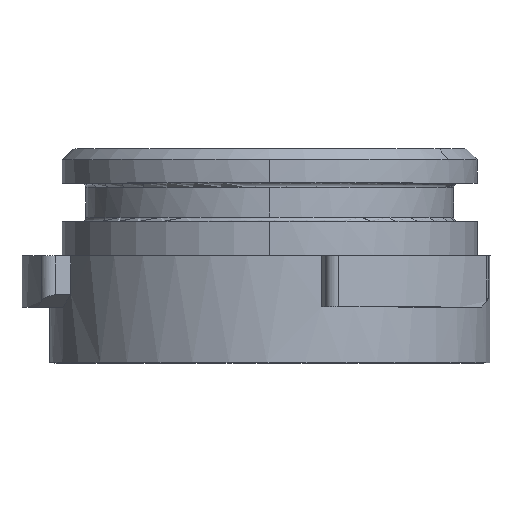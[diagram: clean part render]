
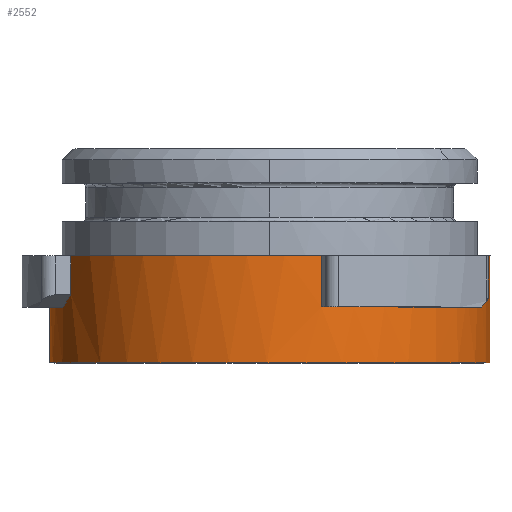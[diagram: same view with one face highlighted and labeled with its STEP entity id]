
A CAD part, top view. The second image highlights one B-rep face of the part: STEP entity #2552.
In plain terms, the highlighted cylindrical face has radius 10.3 mm (diameter 20.6 mm), a partial arc.
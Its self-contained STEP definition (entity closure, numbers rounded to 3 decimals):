
#2081=AXIS2_PLACEMENT_3D('Circle Axis2P3D',#2079,#2080,$) ;
#2359=AXIS2_PLACEMENT_3D('Circle Axis2P3D',#2357,#2358,$) ;
#2373=AXIS2_PLACEMENT_3D('Circle Axis2P3D',#2371,#2372,$) ;
#2493=AXIS2_PLACEMENT_3D('Circle Axis2P3D',#2491,#2492,$) ;
#2507=AXIS2_PLACEMENT_3D('Cylinder Axis2P3D',#2504,#2505,#2506) ;
#2528=AXIS2_PLACEMENT_3D('Circle Axis2P3D',#2526,#2527,$) ;
#50=CARTESIAN_POINT('Vertex',(2.417,-346.905,-60.474)) ;
#53=CARTESIAN_POINT('Line Origine',(2.417,-348.105,-60.474)) ;
#57=CARTESIAN_POINT('Vertex',(2.417,-349.305,-60.474)) ;
#124=CARTESIAN_POINT('Vertex',(-9.679,-349.305,-66.963)) ;
#128=CARTESIAN_POINT('Control Point',(-9.291,-348.728,-66.04)) ;
#129=CARTESIAN_POINT('Control Point',(-9.377,-348.844,-66.221)) ;
#130=CARTESIAN_POINT('Control Point',(-9.459,-348.959,-66.404)) ;
#131=CARTESIAN_POINT('Control Point',(-9.537,-349.075,-66.589)) ;
#132=CARTESIAN_POINT('Control Point',(-9.61,-349.19,-66.775)) ;
#133=CARTESIAN_POINT('Control Point',(-9.679,-349.305,-66.963)) ;
#134=CARTESIAN_POINT('Vertex',(-9.291,-348.728,-66.04)) ;
#691=CARTESIAN_POINT('Vertex',(8.735,-349.305,-65.028)) ;
#695=CARTESIAN_POINT('Control Point',(9.224,-348.728,-65.902)) ;
#696=CARTESIAN_POINT('Control Point',(9.135,-348.844,-65.723)) ;
#697=CARTESIAN_POINT('Control Point',(9.041,-348.959,-65.546)) ;
#698=CARTESIAN_POINT('Control Point',(8.943,-349.075,-65.371)) ;
#699=CARTESIAN_POINT('Control Point',(8.841,-349.19,-65.198)) ;
#700=CARTESIAN_POINT('Control Point',(8.735,-349.305,-65.028)) ;
#701=CARTESIAN_POINT('Vertex',(9.224,-348.728,-65.902)) ;
#2076=CARTESIAN_POINT('Vertex',(10.297,-351.905,-70.23)) ;
#2079=CARTESIAN_POINT('Axis2P3D Location',(0.,-351.905,-70.486)) ;
#2083=CARTESIAN_POINT('Vertex',(-10.3,-351.905,-70.486)) ;
#2357=CARTESIAN_POINT('Axis2P3D Location',(0.,-346.905,-70.486)) ;
#2361=CARTESIAN_POINT('Vertex',(-9.291,-346.905,-66.04)) ;
#2368=CARTESIAN_POINT('Vertex',(9.224,-346.905,-65.902)) ;
#2371=CARTESIAN_POINT('Axis2P3D Location',(0.,-346.905,-70.486)) ;
#2375=CARTESIAN_POINT('Vertex',(10.297,-346.905,-70.23)) ;
#2444=CARTESIAN_POINT('Line Origine',(-9.291,-347.817,-66.04)) ;
#2461=CARTESIAN_POINT('Line Origine',(9.224,-347.817,-65.902)) ;
#2491=CARTESIAN_POINT('Axis2P3D Location',(0.,-349.305,-70.486)) ;
#2504=CARTESIAN_POINT('Axis2P3D Location',(0.,-349.405,-70.486)) ;
#2514=CARTESIAN_POINT('Line Origine',(10.297,-342.515,-70.23)) ;
#2526=CARTESIAN_POINT('Axis2P3D Location',(0.,-349.305,-70.486)) ;
#2530=CARTESIAN_POINT('Vertex',(-10.3,-349.305,-70.486)) ;
#2533=CARTESIAN_POINT('Line Origine',(-10.3,-342.515,-70.486)) ;
#54=DIRECTION('Vector Direction',(0.,1.,0.)) ;
#2080=DIRECTION('Axis2P3D Direction',(-0.,1.,0.)) ;
#2358=DIRECTION('Axis2P3D Direction',(-0.,1.,0.)) ;
#2372=DIRECTION('Axis2P3D Direction',(-0.,1.,0.)) ;
#2445=DIRECTION('Vector Direction',(0.,1.,0.)) ;
#2462=DIRECTION('Vector Direction',(0.,1.,0.)) ;
#2492=DIRECTION('Axis2P3D Direction',(-0.,1.,0.)) ;
#2505=DIRECTION('Axis2P3D Direction',(0.,-1.,-0.)) ;
#2506=DIRECTION('Axis2P3D XDirection',(1.,0.,0.)) ;
#2515=DIRECTION('Vector Direction',(0.,-1.,0.)) ;
#2527=DIRECTION('Axis2P3D Direction',(0.,-1.,-0.)) ;
#2534=DIRECTION('Vector Direction',(0.,-1.,0.)) ;
#55=VECTOR('Line Direction',#54,1.) ;
#2446=VECTOR('Line Direction',#2445,1.) ;
#2463=VECTOR('Line Direction',#2462,1.) ;
#2516=VECTOR('Line Direction',#2515,1.) ;
#2535=VECTOR('Line Direction',#2534,1.) ;
#2539=ORIENTED_EDGE('',*,*,#2518,.T.) ;
#2540=ORIENTED_EDGE('',*,*,#2377,.T.) ;
#2541=ORIENTED_EDGE('',*,*,#2465,.T.) ;
#2542=ORIENTED_EDGE('',*,*,#703,.F.) ;
#2543=ORIENTED_EDGE('',*,*,#2495,.F.) ;
#2544=ORIENTED_EDGE('',*,*,#59,.F.) ;
#2545=ORIENTED_EDGE('',*,*,#2363,.T.) ;
#2546=ORIENTED_EDGE('',*,*,#2448,.T.) ;
#2547=ORIENTED_EDGE('',*,*,#136,.F.) ;
#2548=ORIENTED_EDGE('',*,*,#2532,.F.) ;
#2549=ORIENTED_EDGE('',*,*,#2537,.F.) ;
#2550=ORIENTED_EDGE('',*,*,#2085,.F.) ;
#2552=ADVANCED_FACE('\X2\538B76D6\X0\.1.1.2\\\X2\96F64EF651E04F554F53\X0\',(#2551),#2508,.T.) ;
#127=B_SPLINE_CURVE_WITH_KNOTS('',5,(#128,#129,#130,#131,#132,#133),.UNSPECIFIED.,.F.,.U.,(6,6),(0.,1.635),.UNSPECIFIED.) ;
#694=B_SPLINE_CURVE_WITH_KNOTS('',5,(#695,#696,#697,#698,#699,#700),.UNSPECIFIED.,.F.,.U.,(6,6),(0.,1.635),.UNSPECIFIED.) ;
#2082=CIRCLE('generated circle',#2081,10.3) ;
#2360=CIRCLE('generated circle',#2359,10.3) ;
#2374=CIRCLE('generated circle',#2373,10.3) ;
#2494=CIRCLE('generated circle',#2493,10.3) ;
#2529=CIRCLE('generated circle',#2528,10.3) ;
#2508=CYLINDRICAL_SURFACE('generated cylinder',#2507,10.3) ;
#59=EDGE_CURVE('',#51,#58,#56,.F.) ;
#136=EDGE_CURVE('',#125,#135,#127,.F.) ;
#703=EDGE_CURVE('',#692,#702,#694,.F.) ;
#2085=EDGE_CURVE('',#2077,#2084,#2082,.F.) ;
#2363=EDGE_CURVE('',#51,#2362,#2360,.F.) ;
#2377=EDGE_CURVE('',#2376,#2369,#2374,.F.) ;
#2448=EDGE_CURVE('',#2362,#135,#2447,.F.) ;
#2465=EDGE_CURVE('',#2369,#702,#2464,.F.) ;
#2495=EDGE_CURVE('',#58,#692,#2494,.T.) ;
#2518=EDGE_CURVE('',#2077,#2376,#2517,.F.) ;
#2532=EDGE_CURVE('',#2531,#125,#2529,.F.) ;
#2537=EDGE_CURVE('',#2084,#2531,#2536,.F.) ;
#2538=EDGE_LOOP('',(#2539,#2540,#2541,#2542,#2543,#2544,#2545,#2546,#2547,#2548,#2549,#2550)) ;
#2551=FACE_OUTER_BOUND('',#2538,.T.) ;
#56=LINE('Line',#53,#55) ;
#2447=LINE('Line',#2444,#2446) ;
#2464=LINE('Line',#2461,#2463) ;
#2517=LINE('Line',#2514,#2516) ;
#2536=LINE('Line',#2533,#2535) ;
#51=VERTEX_POINT('',#50) ;
#58=VERTEX_POINT('',#57) ;
#125=VERTEX_POINT('',#124) ;
#135=VERTEX_POINT('',#134) ;
#692=VERTEX_POINT('',#691) ;
#702=VERTEX_POINT('',#701) ;
#2077=VERTEX_POINT('',#2076) ;
#2084=VERTEX_POINT('',#2083) ;
#2362=VERTEX_POINT('',#2361) ;
#2369=VERTEX_POINT('',#2368) ;
#2376=VERTEX_POINT('',#2375) ;
#2531=VERTEX_POINT('',#2530) ;
